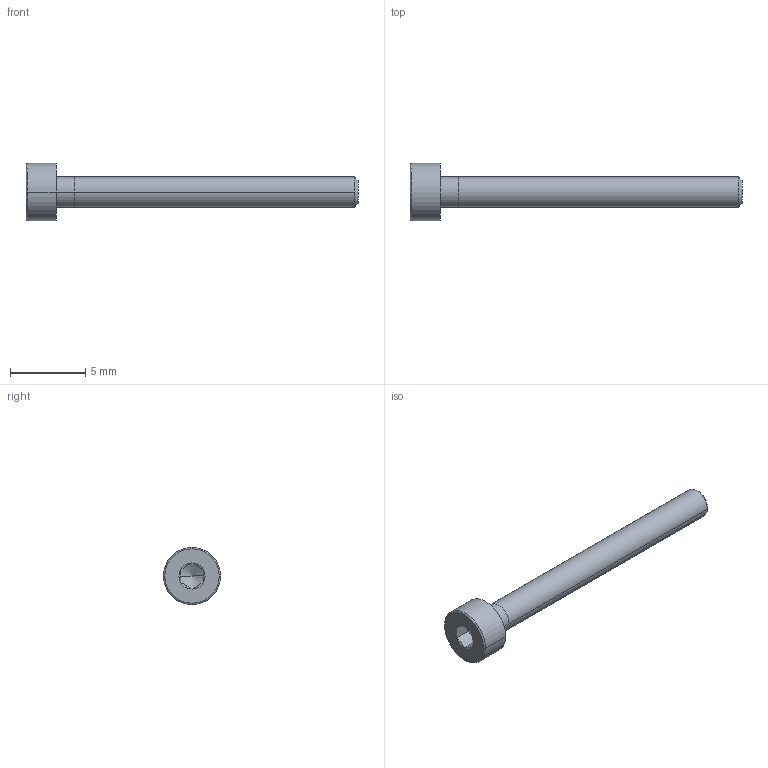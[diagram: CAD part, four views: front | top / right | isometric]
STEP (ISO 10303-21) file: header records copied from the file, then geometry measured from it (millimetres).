
FILE_DESCRIPTION(/* description */ ('VariCAD 2010-3.03 AP-214'),/* implementation_level */ '2;1');
FILE_NAME(/* name */ '0353-99-22',/* time_stamp */ '2011-01-17T19:06:56-07:00',/* author */ (''),/* organization */ (''),/* preprocessor_version */ 'ST-DEVELOPER v12',/* originating_system */ 'VariCAD 2010-3.03; kernel version (20100102)',/* authorisation */ '');
FILE_SCHEMA (('AUTOMOTIVE_DESIGN'));
Length unit declared in the file: millimetre
Products named in the file (1): Part
Bounding box: 22 x 3.8 x 3.8 mm (x, y, z)
Volume: 83 mm3; surface area: 364.1 mm2
Topology: 2 solids, 2 shells, 35 faces, 72 edges, 41 vertices
Faces by surface type: cone 12, plane 11, cylinder 10, torus 2
Entity records: 1237 total; most frequent: CARTESIAN_POINT 229, DIRECTION 162, ORIENTED_EDGE 140, EDGE_CURVE 70, AXIS2_PLACEMENT_3D 70, VERTEX_POINT 41, EDGE_LOOP 39, PRESENTATION_STYLE_ASSIGNMENT 37
